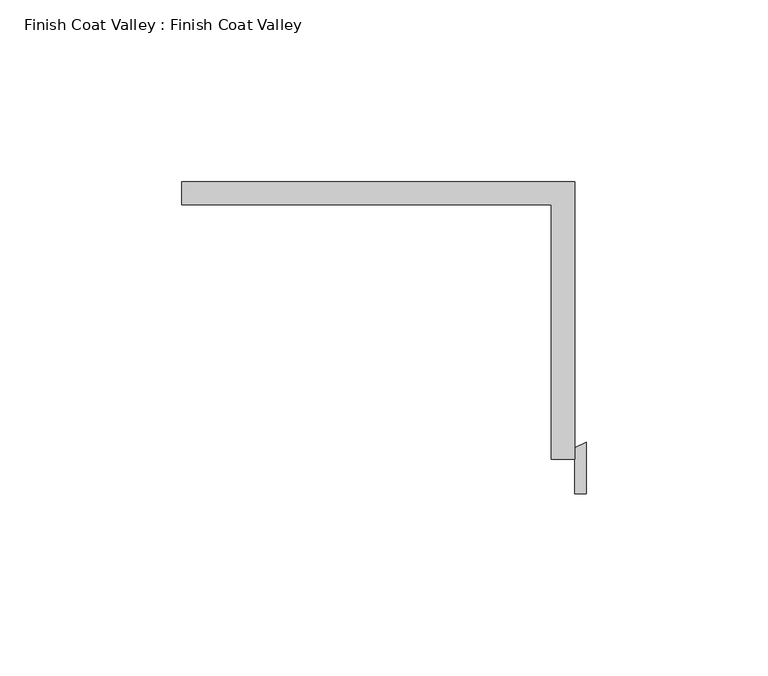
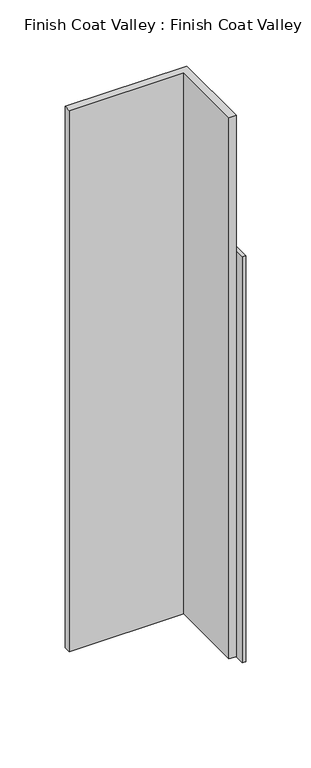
"""IFC4 building model written with IfcOpenShell, lengths in millimetres: proxy geometry, Finish Coat Valley : Finish Coat Valley."""

from ifc_helpers import new_model, si_unit, point, frame_2d, origin, origin_with_axes, place, context, project, spatial, polyline, circle_curve, trimmed, segment, composite_curve, outline, extrude, source, transform, mapped, element, save


def finish_coat_valley_finish_coat_valley_fec99bc7(model_context):
    return source(origin(), model_context, "Body", "SweptSolid", [
        extrude(outline(polyline([(26815.4039273, 630.8048866), (26815.4039273, 554.6048866), (26809.0539273, 554.6048866), (26809.0539273, 624.4548866), (26707.4539273, 624.4548866), (26707.4539273, 630.8048866), (26815.4039273, 630.8048866)])), origin_with_axes(), (0.0, 0.0, 1.0), 508.0),
        extrude(outline(composite_curve([segment(trimmed(circle_curve(frame_2d((26824.9289273, 541.2838457)), 19.05), [point((26815.4039273, 557.7816297))], [point((26818.5789273, 559.244358))], False, "CARTESIAN"), True, "CONTINUOUS"), segment(polyline([(26818.5789273, 559.244358), (26818.5789273, 545.0816297), (26815.4039273, 545.0816297), (26815.4039273, 557.7816297)]), True, "CONTINUOUS")], self_intersect=False)), origin_with_axes(), (0.0, 0.0, 1.0), 381.0),
    ])


if __name__ == "__main__":
    model = new_model("IFC4")
    model_context = context("Model", 3, world=origin())
    ifc_project = project(units=[si_unit("LENGTHUNIT", "METRE", prefix="MILLI")], contexts=[model_context])
    site = spatial("IfcSite", under=ifc_project)
    building = spatial("IfcBuilding", under=site)
    placement = place(None, origin())
    finish_coat_valley_finish_coat_valley_shape = finish_coat_valley_finish_coat_valley_fec99bc7(model_context)
    element("IfcBuildingElementProxy", 1, Name="Finish Coat Valley : Finish Coat Valley", ObjectType="Finish Coat Valley : Finish Coat Valley", at=placement, inside=building, context=model_context, shape_type="MappedRepresentation", body=[
        mapped(finish_coat_valley_finish_coat_valley_shape, transform((0.0, 0.0, 0.0), x_axis=(1.0, 0.0, 0.0), y_axis=(0.0, 1.0, 0.0), z_axis=(0.0, 0.0, 1.0))),
    ])
    save(model, "model.ifc")
